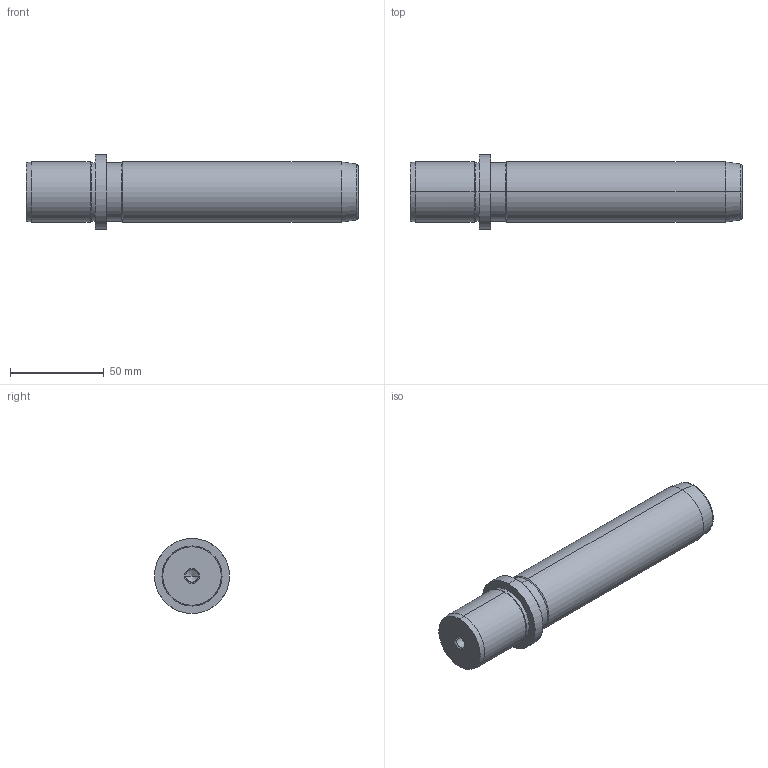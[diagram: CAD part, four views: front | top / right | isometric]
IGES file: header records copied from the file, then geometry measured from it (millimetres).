
Start section: START RECORD GO HERE.
Global section: file name: 718-32x140.igs; native system: DASSAULT SYSTEMES CATIA V5 R20 - www.3ds.com; preprocessor: CATIA Version 5 Release 20 ; author: Utente; organization: NB04-ASUS; date: 20210102.140844; units: millimetre
Bounding box: 177 x 40 x 40 mm (x, y, z)
Surface area: 21333.9 mm2 (no closed solid volume)
Topology: 0 solids, 0 shells, 36 faces, 196 edges, 192 vertices
Faces by surface type: revolution 32, plane 4
